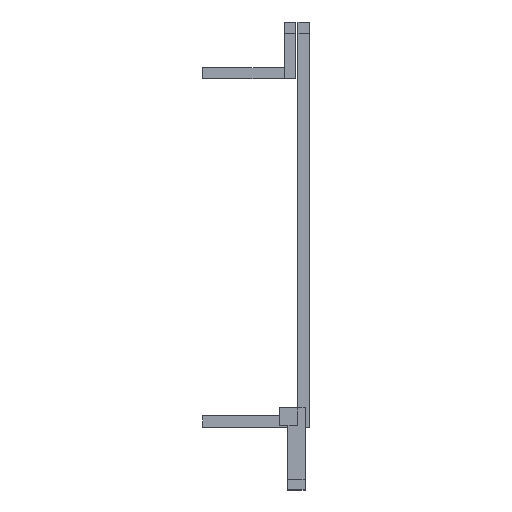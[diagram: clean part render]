
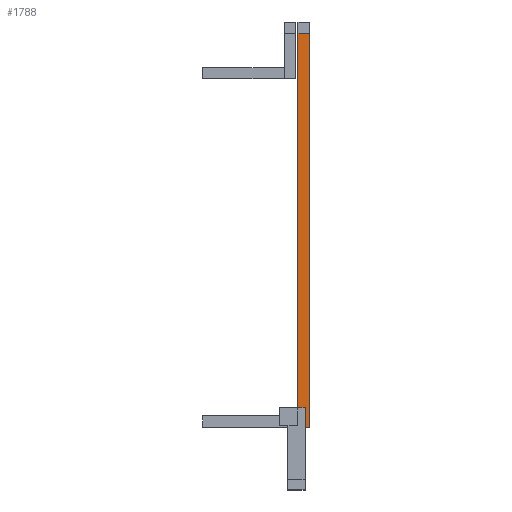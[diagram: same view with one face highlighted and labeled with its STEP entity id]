
A CAD part, top view. The second image highlights one B-rep face of the part: STEP entity #1788.
In plain terms, the highlighted planar face has unit normal (0, 0, 1).
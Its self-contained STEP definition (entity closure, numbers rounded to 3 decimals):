
#1474 = VERTEX_POINT('',#1475);
#1475 = CARTESIAN_POINT('',(-1.1,-39.55,1.1));
#1482 = PLANE('',#1483);
#1483 = AXIS2_PLACEMENT_3D('',#1484,#1485,#1486);
#1484 = CARTESIAN_POINT('',(-1.1,-39.55,-1.1));
#1485 = DIRECTION('',(1.,0.,-0.));
#1486 = DIRECTION('',(0.,0.,1.));
#1494 = PLANE('',#1495);
#1495 = AXIS2_PLACEMENT_3D('',#1496,#1497,#1498);
#1496 = CARTESIAN_POINT('',(-1.1,-39.55,-1.1));
#1497 = DIRECTION('',(-0.,1.,0.));
#1498 = DIRECTION('',(0.,0.,1.));
#1535 = VERTEX_POINT('',#1536);
#1536 = CARTESIAN_POINT('',(-1.1,39.55,1.1));
#1550 = PLANE('',#1551);
#1551 = AXIS2_PLACEMENT_3D('',#1552,#1553,#1554);
#1552 = CARTESIAN_POINT('',(-1.1,39.55,-1.1));
#1553 = DIRECTION('',(-0.,1.,0.));
#1554 = DIRECTION('',(0.,0.,1.));
#1562 = EDGE_CURVE('',#1474,#1535,#1563,.T.);
#1563 = SURFACE_CURVE('',#1564,(#1568,#1575),.PCURVE_S1.);
#1564 = LINE('',#1565,#1566);
#1565 = CARTESIAN_POINT('',(-1.1,-39.55,1.1));
#1566 = VECTOR('',#1567,1.);
#1567 = DIRECTION('',(-0.,1.,0.));
#1568 = PCURVE('',#1482,#1569);
#1569 = DEFINITIONAL_REPRESENTATION('',(#1570),#1574);
#1570 = LINE('',#1571,#1572);
#1571 = CARTESIAN_POINT('',(2.2,0.));
#1572 = VECTOR('',#1573,1.);
#1573 = DIRECTION('',(0.,-1.));
#1574 = ( GEOMETRIC_REPRESENTATION_CONTEXT(2) 
PARAMETRIC_REPRESENTATION_CONTEXT() REPRESENTATION_CONTEXT('2D SPACE',''
  ) );
#1575 = PCURVE('',#1576,#1581);
#1576 = PLANE('',#1577);
#1577 = AXIS2_PLACEMENT_3D('',#1578,#1579,#1580);
#1578 = CARTESIAN_POINT('',(-1.1,-39.55,1.1));
#1579 = DIRECTION('',(0.,0.,1.));
#1580 = DIRECTION('',(1.,0.,-0.));
#1581 = DEFINITIONAL_REPRESENTATION('',(#1582),#1586);
#1582 = LINE('',#1583,#1584);
#1583 = CARTESIAN_POINT('',(0.,0.));
#1584 = VECTOR('',#1585,1.);
#1585 = DIRECTION('',(0.,1.));
#1586 = ( GEOMETRIC_REPRESENTATION_CONTEXT(2) 
PARAMETRIC_REPRESENTATION_CONTEXT() REPRESENTATION_CONTEXT('2D SPACE',''
  ) );
#1594 = VERTEX_POINT('',#1595);
#1595 = CARTESIAN_POINT('',(1.1,-39.55,1.1));
#1602 = PLANE('',#1603);
#1603 = AXIS2_PLACEMENT_3D('',#1604,#1605,#1606);
#1604 = CARTESIAN_POINT('',(1.1,-39.55,-1.1));
#1605 = DIRECTION('',(1.,0.,-0.));
#1606 = DIRECTION('',(0.,0.,1.));
#1645 = VERTEX_POINT('',#1646);
#1646 = CARTESIAN_POINT('',(1.1,39.55,1.1));
#1667 = EDGE_CURVE('',#1594,#1645,#1668,.T.);
#1668 = SURFACE_CURVE('',#1669,(#1673,#1680),.PCURVE_S1.);
#1669 = LINE('',#1670,#1671);
#1670 = CARTESIAN_POINT('',(1.1,-39.55,1.1));
#1671 = VECTOR('',#1672,1.);
#1672 = DIRECTION('',(-0.,1.,0.));
#1673 = PCURVE('',#1602,#1674);
#1674 = DEFINITIONAL_REPRESENTATION('',(#1675),#1679);
#1675 = LINE('',#1676,#1677);
#1676 = CARTESIAN_POINT('',(2.2,0.));
#1677 = VECTOR('',#1678,1.);
#1678 = DIRECTION('',(0.,-1.));
#1679 = ( GEOMETRIC_REPRESENTATION_CONTEXT(2) 
PARAMETRIC_REPRESENTATION_CONTEXT() REPRESENTATION_CONTEXT('2D SPACE',''
  ) );
#1680 = PCURVE('',#1576,#1681);
#1681 = DEFINITIONAL_REPRESENTATION('',(#1682),#1686);
#1682 = LINE('',#1683,#1684);
#1683 = CARTESIAN_POINT('',(2.2,0.));
#1684 = VECTOR('',#1685,1.);
#1685 = DIRECTION('',(0.,1.));
#1686 = ( GEOMETRIC_REPRESENTATION_CONTEXT(2) 
PARAMETRIC_REPRESENTATION_CONTEXT() REPRESENTATION_CONTEXT('2D SPACE',''
  ) );
#1713 = EDGE_CURVE('',#1474,#1594,#1714,.T.);
#1714 = SURFACE_CURVE('',#1715,(#1719,#1726),.PCURVE_S1.);
#1715 = LINE('',#1716,#1717);
#1716 = CARTESIAN_POINT('',(-1.1,-39.55,1.1));
#1717 = VECTOR('',#1718,1.);
#1718 = DIRECTION('',(1.,0.,-0.));
#1719 = PCURVE('',#1494,#1720);
#1720 = DEFINITIONAL_REPRESENTATION('',(#1721),#1725);
#1721 = LINE('',#1722,#1723);
#1722 = CARTESIAN_POINT('',(2.2,0.));
#1723 = VECTOR('',#1724,1.);
#1724 = DIRECTION('',(0.,1.));
#1725 = ( GEOMETRIC_REPRESENTATION_CONTEXT(2) 
PARAMETRIC_REPRESENTATION_CONTEXT() REPRESENTATION_CONTEXT('2D SPACE',''
  ) );
#1726 = PCURVE('',#1576,#1727);
#1727 = DEFINITIONAL_REPRESENTATION('',(#1728),#1732);
#1728 = LINE('',#1729,#1730);
#1729 = CARTESIAN_POINT('',(0.,0.));
#1730 = VECTOR('',#1731,1.);
#1731 = DIRECTION('',(1.,0.));
#1732 = ( GEOMETRIC_REPRESENTATION_CONTEXT(2) 
PARAMETRIC_REPRESENTATION_CONTEXT() REPRESENTATION_CONTEXT('2D SPACE',''
  ) );
#1760 = EDGE_CURVE('',#1535,#1645,#1761,.T.);
#1761 = SURFACE_CURVE('',#1762,(#1766,#1773),.PCURVE_S1.);
#1762 = LINE('',#1763,#1764);
#1763 = CARTESIAN_POINT('',(-1.1,39.55,1.1));
#1764 = VECTOR('',#1765,1.);
#1765 = DIRECTION('',(1.,0.,-0.));
#1766 = PCURVE('',#1550,#1767);
#1767 = DEFINITIONAL_REPRESENTATION('',(#1768),#1772);
#1768 = LINE('',#1769,#1770);
#1769 = CARTESIAN_POINT('',(2.2,0.));
#1770 = VECTOR('',#1771,1.);
#1771 = DIRECTION('',(0.,1.));
#1772 = ( GEOMETRIC_REPRESENTATION_CONTEXT(2) 
PARAMETRIC_REPRESENTATION_CONTEXT() REPRESENTATION_CONTEXT('2D SPACE',''
  ) );
#1773 = PCURVE('',#1576,#1774);
#1774 = DEFINITIONAL_REPRESENTATION('',(#1775),#1779);
#1775 = LINE('',#1776,#1777);
#1776 = CARTESIAN_POINT('',(0.,79.1));
#1777 = VECTOR('',#1778,1.);
#1778 = DIRECTION('',(1.,0.));
#1779 = ( GEOMETRIC_REPRESENTATION_CONTEXT(2) 
PARAMETRIC_REPRESENTATION_CONTEXT() REPRESENTATION_CONTEXT('2D SPACE',''
  ) );
#1788 = ADVANCED_FACE('',(#1789),#1576,.T.);
#1789 = FACE_BOUND('',#1790,.T.);
#1790 = EDGE_LOOP('',(#1791,#1792,#1793,#1794));
#1791 = ORIENTED_EDGE('',*,*,#1562,.F.);
#1792 = ORIENTED_EDGE('',*,*,#1713,.T.);
#1793 = ORIENTED_EDGE('',*,*,#1667,.T.);
#1794 = ORIENTED_EDGE('',*,*,#1760,.F.);
